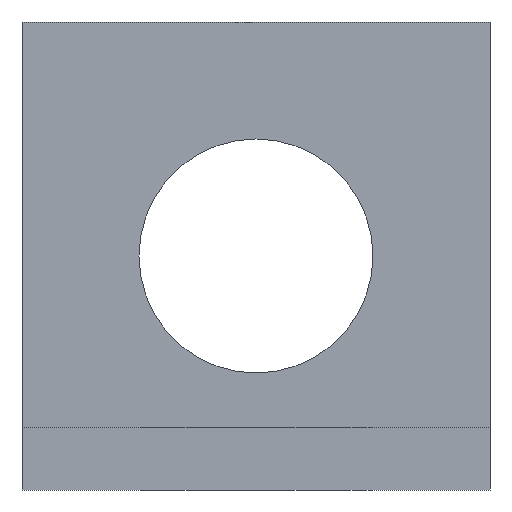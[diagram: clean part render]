
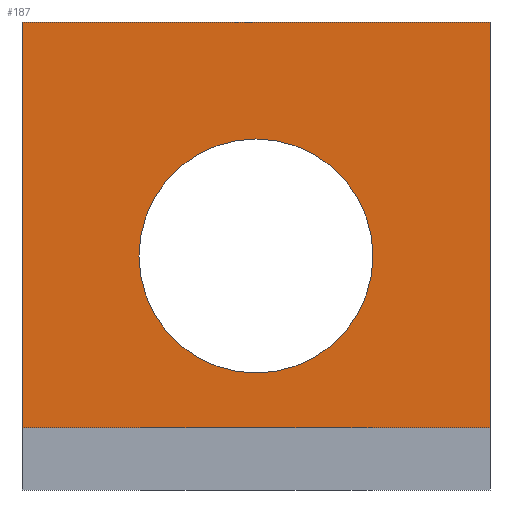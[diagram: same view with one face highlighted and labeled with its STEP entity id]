
A CAD part, front view. The second image highlights one B-rep face of the part: STEP entity #187.
In plain terms, the highlighted planar face has unit normal (0, -1, 0).
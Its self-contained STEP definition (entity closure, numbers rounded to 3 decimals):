
#15=FACE_BOUND('',#40,.T.);
#20=PLANE('',#222);
#29=FACE_OUTER_BOUND('',#39,.T.);
#39=EDGE_LOOP('',(#143,#144,#145,#146));
#40=EDGE_LOOP('',(#147));
#54=LINE('',#296,#74);
#56=LINE('',#300,#76);
#57=LINE('',#302,#77);
#58=LINE('',#303,#78);
#74=VECTOR('',#245,10.);
#76=VECTOR('',#249,10.);
#77=VECTOR('',#250,10.);
#78=VECTOR('',#251,10.);
#92=CIRCLE('',#220,3.75);
#96=VERTEX_POINT('',#286);
#99=VERTEX_POINT('',#293);
#100=VERTEX_POINT('',#295);
#101=VERTEX_POINT('',#299);
#102=VERTEX_POINT('',#301);
#113=EDGE_CURVE('',#96,#96,#92,.T.);
#116=EDGE_CURVE('',#100,#99,#54,.T.);
#118=EDGE_CURVE('',#99,#101,#56,.T.);
#119=EDGE_CURVE('',#102,#101,#57,.T.);
#120=EDGE_CURVE('',#102,#100,#58,.T.);
#143=ORIENTED_EDGE('',*,*,#116,.T.);
#144=ORIENTED_EDGE('',*,*,#118,.T.);
#145=ORIENTED_EDGE('',*,*,#119,.F.);
#146=ORIENTED_EDGE('',*,*,#120,.T.);
#147=ORIENTED_EDGE('',*,*,#113,.T.);
#187=ADVANCED_FACE('',(#29,#15),#20,.T.);
#220=AXIS2_PLACEMENT_3D('',#288,#239,#240);
#222=AXIS2_PLACEMENT_3D('',#298,#247,#248);
#239=DIRECTION('center_axis',(0.,1.,0.));
#240=DIRECTION('ref_axis',(1.,0.,0.));
#245=DIRECTION('',(-1.,0.,0.));
#247=DIRECTION('center_axis',(0.,-1.,0.));
#248=DIRECTION('ref_axis',(0.,0.,-1.));
#249=DIRECTION('',(0.,0.,-1.));
#250=DIRECTION('',(-1.,0.,0.));
#251=DIRECTION('',(0.,0.,1.));
#286=CARTESIAN_POINT('',(-3.75,5.5,7.5));
#288=CARTESIAN_POINT('Origin',(0.,5.5,7.5));
#293=CARTESIAN_POINT('',(-7.5,5.5,15.));
#295=CARTESIAN_POINT('',(7.5,5.5,15.));
#296=CARTESIAN_POINT('',(-7.5,5.5,15.));
#298=CARTESIAN_POINT('Origin',(0.,5.5,8.5));
#299=CARTESIAN_POINT('',(-7.5,5.5,2.));
#300=CARTESIAN_POINT('',(-7.5,5.5,2.));
#301=CARTESIAN_POINT('',(7.5,5.5,2.));
#302=CARTESIAN_POINT('',(0.,5.5,2.));
#303=CARTESIAN_POINT('',(7.5,5.5,15.));
